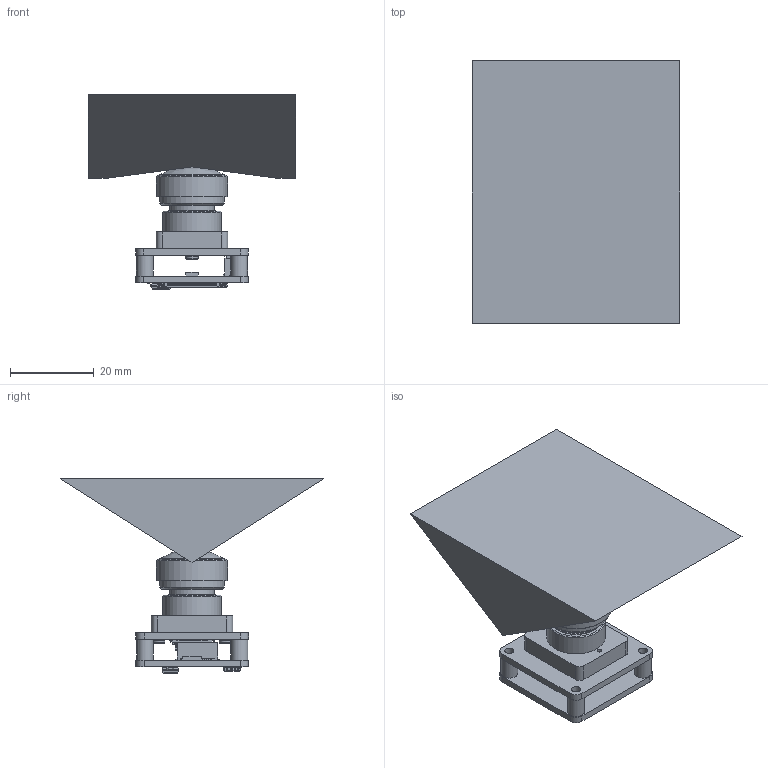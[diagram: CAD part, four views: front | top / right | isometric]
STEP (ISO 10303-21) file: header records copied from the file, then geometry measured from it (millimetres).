
FILE_DESCRIPTION(/* description */ ('STEP AP242 Edition 2','CAx-IF Rec.Pracs.---Representation and Presentation of Product Manufacturing Information (PMI)---4.0---2014-10-13','CAx-IF Rec.Pracs.---3D Tessellated Geometry---0.4---2014-09-14','2;1','CAx-IF Rec.Pracs.---User Defined Attributes---1.5---2016-08-15'),/* implementation_level */ '2;1');
FILE_NAME(/* name */ '6936db22f9c64e5163e51bc6',/* time_stamp */ '2025-12-08T14:05:26Z',/* author */ (''),/* organization */ (''),/* preprocessor_version */ 'ST-DEVELOPER v20',/* originating_system */ 'ONSHAPE BY PTC INC, 1.207',/* authorisation */ ' ');
FILE_SCHEMA (('AP242_MANAGED_MODEL_BASED_3D_ENGINEERING_MIM_LF { 1 0 10303 442 3 1 4 }'));
Products named in the file (73): ZED X ONE Core; Spacer barebone; Camera Component - Lens Holder Fisheye; Screw - Cheese Head Phillips - M1.4 x 0.3 x 5 - Steel - Natural - Zin
c Plate - Glued; Fisheye lens <1>; Simple FOV; Image plane; Infrared filter; Fisheye lens; PCB ZED ONE Barebone <1>; 1085; 20525-x30E-02C RECE ASS''Y STEP R7 ALL; ASSEMBLY <1>; PinsArrayLR; Body; Camera Component - PCB Sensor - ZED X One GS <1>; 10132798-032100LF; ZEDX-ONE-AR0234 V1.0_TOP; 05PITCH-50H-30PIN_ASM <1>; TERMINAL; PAD1; PAD2; 05-50H-30PIN
Assembly tree (98 placements, depth 4):
  ZED X ONE Core
    Spacer barebone  x4
    Camera Component - Lens Holder Fisheye
    Screw - Cheese Head Phillips - M1.4 x 0.3 x 5 - Steel - Natural - Zin
c Plate - Glued  x2
    Fisheye lens <1>
      Simple FOV
      Image plane
      Infrared filter
      Fisheye lens
    PCB ZED ONE Barebone <1>
      1085
      1085
      1085
      1085
      1085
      1085
      1085
      1085
      1085
      ASSEMBLY <1>
        PinsArrayLR
        PinsArrayLR
        PinsArrayLR
        Body
        PinsArrayLR
      Camera Component - PCB Sensor - ZED X One GS <1>
        10132798-032100LF
        10132798-032100LF
        10132798-032100LF
        10132798-032100LF
        10132798-032100LF
        10132798-032100LF
        10132798-032100LF
        10132798-032100LF
        10132798-032100LF
        10132798-032100LF
        10132798-032100LF
        10132798-032100LF
        10132798-032100LF
        10132798-032100LF
        10132798-032100LF
        10132798-032100LF
        10132798-032100LF
        10132798-032100LF
        10132798-032100LF
        10132798-032100LF
        10132798-032100LF
        10132798-032100LF
        ZEDX-ONE-AR0234 V1.0_TOP
        10132798-032100LF
        10132798-032100LF
        10132798-032100LF
        10132798-032100LF
        10132798-032100LF
        10132798-032100LF
        10132798-032100LF
        10132798-032100LF
        10132798-032100LF
        10132798-032100LF
        10132798-032100LF
Bounding box: 49.57 x 62.79 x 46.5 mm (x, y, z)
Volume: 37257.9 mm3; surface area: 16178.4 mm2
Topology: 99 solids, 99 shells, 5242 faces, 15203 edges, 10055 vertices
Faces by surface type: plane 3611, cylinder 1587, cone 28, bspline 11, torus 4, sphere 1
Full cylindrical faces by diameter (mm): 0.5 x4, 0.562 x1, 0.6 x4, 1 x2, 1.05 x2, 1.1 x2, 1.4 x2, 1.42 x2, 1.5 x2, 2.2 x20, 3 x2, 4 x20, 6 x1, 6.6 x1, 10.8 x2, 11.5 x1, 14 x1, 15.195 x1, 15.4 x1, 17 x1
Entity records: 143260 total; most frequent: CARTESIAN_POINT 26304, ORIENTED_EDGE 24340, DIRECTION 22933, EDGE_CURVE 12170, LINE 9745, VECTOR 9745, VERTEX_POINT 8086, AXIS2_PLACEMENT_3D 6594
